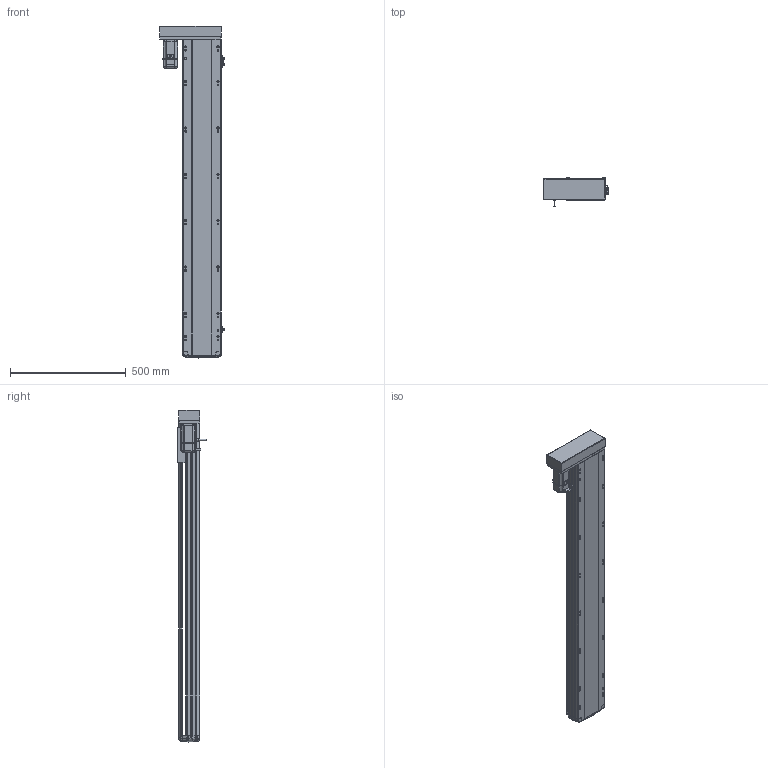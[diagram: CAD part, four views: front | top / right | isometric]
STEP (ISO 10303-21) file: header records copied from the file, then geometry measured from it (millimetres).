
FILE_DESCRIPTION (( 'STEP AP214' ), '1' );
FILE_NAME ('RTH17-XX-1150-R-M40-C4.STEP', '2025-10-24T09:00:05', ( '' ), ( '' ), 'SwSTEP 2.0', 'SolidWorks 2018', '' );
FILE_SCHEMA (( 'AUTOMOTIVE_DESIGN' ));
Length unit declared in the file: millimetre
Products named in the file (10): N_RTH17-L-018盖子^RTH17-XX-XX-R-M40-C4（方程式）; N_M40^RTH17-XX-XX-R-M40-C4（方程式）; N_RTH17-GY-001P^RTH17-XX-XX-R-M40-C4（方程式）; N_RTH17-M-011底座^RTH17-XX-XX-R-M40-C4（方程式）; RTH17-XX-1150-R-M40-C4; N_RTH17-L-008-P40电机安装板左转折^RTH17-XX-XX-R-M40-C4（方程式）; N_RTH17-M-007上盖^RTH17-XX-XX-R-M40-C4（方程式）; N_OMRON EE-SX672 換覜ん^RTH17-XX-XX-R-M40-C4ㄗ源最宒ㄘ; N_RTH17-E-004丝杆螺母连接座^RTH17-XX-XX-R-M40-C4（方程式）; N_RTH-BL-012 感应片(外置)^RTH17-XX-XX-R-M40-C4（方程式）
Assembly tree (11 placements, depth 2):
  RTH17-XX-1150-R-M40-C4
    N_RTH17-M-011底座^RTH17-XX-XX-R-M40-C4（方程式）
    N_RTH17-M-007上盖^RTH17-XX-XX-R-M40-C4（方程式）
    N_M40^RTH17-XX-XX-R-M40-C4（方程式）
    N_OMRON EE-SX672 換覜ん^RTH17-XX-XX-R-M40-C4ㄗ源最宒ㄘ  x3
    N_RTH-BL-012 感应片(外置)^RTH17-XX-XX-R-M40-C4（方程式）
    N_RTH17-L-008-P40电机安装板左转折^RTH17-XX-XX-R-M40-C4（方程式）
    N_RTH17-L-018盖子^RTH17-XX-XX-R-M40-C4（方程式）
    N_RTH17-E-004丝杆螺母连接座^RTH17-XX-XX-R-M40-C4（方程式）
    N_RTH17-GY-001P^RTH17-XX-XX-R-M40-C4（方程式）
Bounding box: 280.5 x 127 x 1432.99 mm (x, y, z)
Volume: 11900540.2 mm3; surface area: 1518755.5 mm2
Topology: 13 solids, 15 shells, 1695 faces, 4737 edges, 3090 vertices
Faces by surface type: plane 839, cylinder 489, bspline 330, cone 28, torus 9
Entity records: 50010 total; most frequent: CARTESIAN_POINT 20143, ORIENTED_EDGE 6498, DIRECTION 5359, EDGE_CURVE 3253, VERTEX_POINT 2126, VECTOR 1801, LINE 1801, AXIS2_PLACEMENT_3D 1779
